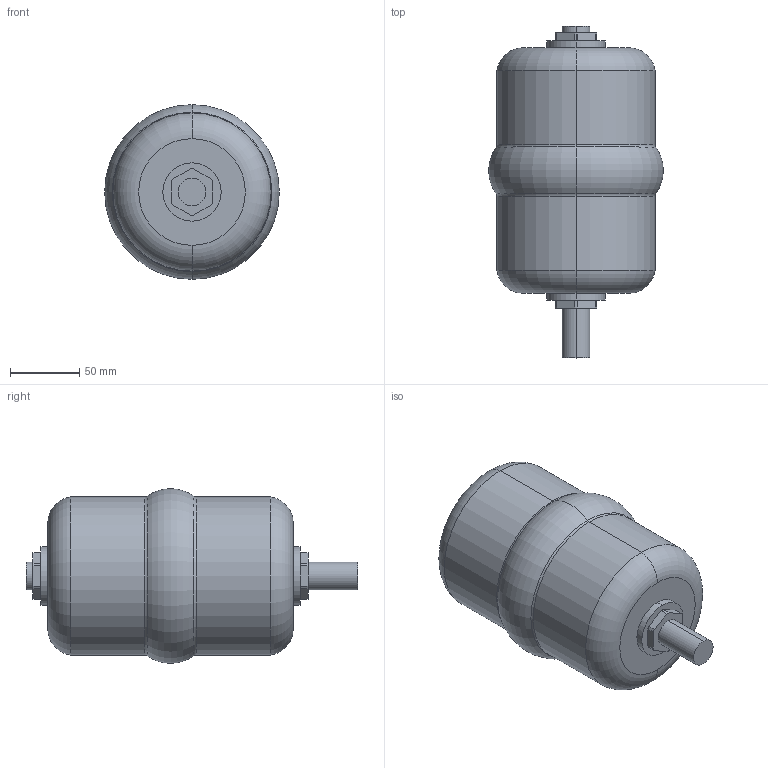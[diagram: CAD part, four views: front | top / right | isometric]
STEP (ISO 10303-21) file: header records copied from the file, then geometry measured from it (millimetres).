
FILE_DESCRIPTION (( 'STEP AP214' ), '1' );
FILE_NAME ('SW4-110mm.STEP', '2017-11-03T20:22:15', ( '' ), ( '' ), 'SwSTEP 2.0', 'SolidWorks 2014', '' );
FILE_SCHEMA (( 'AUTOMOTIVE_DESIGN' ));
Length unit declared in the file: millimetre
Products named in the file (1): SW4-110mm
Bounding box: 126 x 239.5 x 126 mm (x, y, z)
Volume: 1846973.7 mm3; surface area: 84705 mm2
Topology: 1 solids, 1 shells, 56 faces, 132 edges, 84 vertices
Faces by surface type: cylinder 26, plane 20, torus 10
Entity records: 1664 total; most frequent: DIRECTION 316, CARTESIAN_POINT 273, ORIENTED_EDGE 264, EDGE_CURVE 132, AXIS2_PLACEMENT_3D 127, VERTEX_POINT 84, CIRCLE 70, EDGE_LOOP 62
